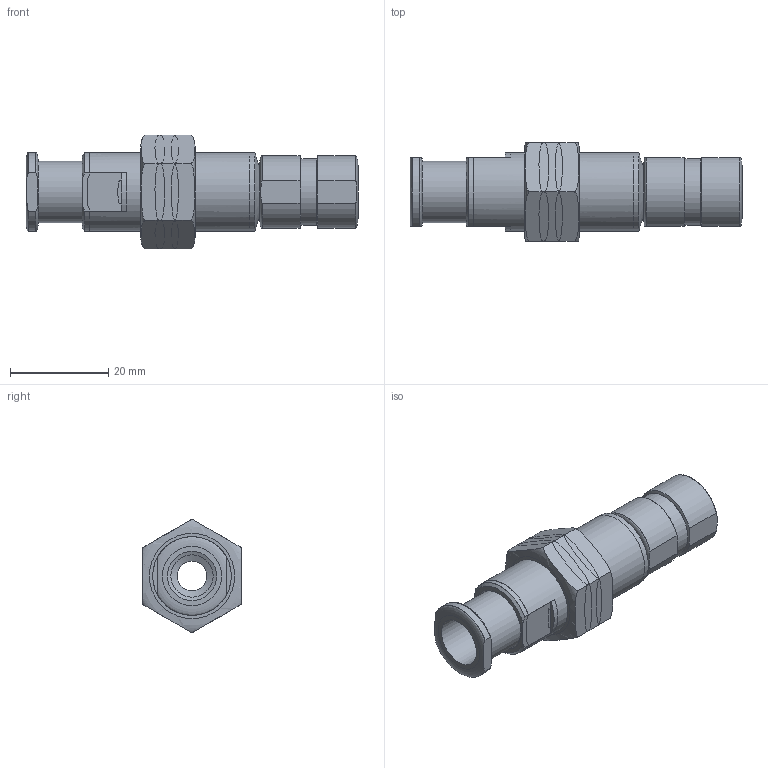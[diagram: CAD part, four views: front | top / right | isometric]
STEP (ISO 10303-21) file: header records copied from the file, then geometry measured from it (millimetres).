
FILE_DESCRIPTION( ( 'Unknown' ), '1' );
FILE_NAME( 'C:/Documents and Settings/Owner/官帕 拳搁/LEVEL SPRING HOMEPAGE/L1810TS-M10F/L1810TS-M10F.stp', 'Unknown', ( 'Unknown' ), ( 'Unknown' ), 'PSStep 10.0', 'Unknown', ' ' );
FILE_SCHEMA( ( 'AUTOMOTIVE_DESIGN { 1 0 10303 214 1 1 1 1 }' ) );
Length unit declared in the file: millimetre
Products named in the file (5): Assem1; SHAFT; HOUNSING; UPPER; NUT
Bounding box: 67.5 x 20 x 23.09 mm (x, y, z)
Surface area: 19637.4 mm2 (no closed solid volume)
Topology: 0 solids, 143 shells, 143 faces, 561 edges, 494 vertices
Faces by surface type: plane 60, cylinder 39, cone 20, revolution 14, torus 10
Full cylindrical faces by diameter (mm): 6 x2, 8.6 x2, 8.8 x2, 9.8 x4, 10 x6, 12.5 x4, 13.5 x2, 16 x5
Entity records: 4204 total; most frequent: CARTESIAN_POINT 1724, DIRECTION 410, ORIENTED_EDGE 218, EDGE_CURVE 218, VERTEX_POINT 218, AXIS2_PLACEMENT_3D 176, CIRCLE 110, FACE_BOUND 108
